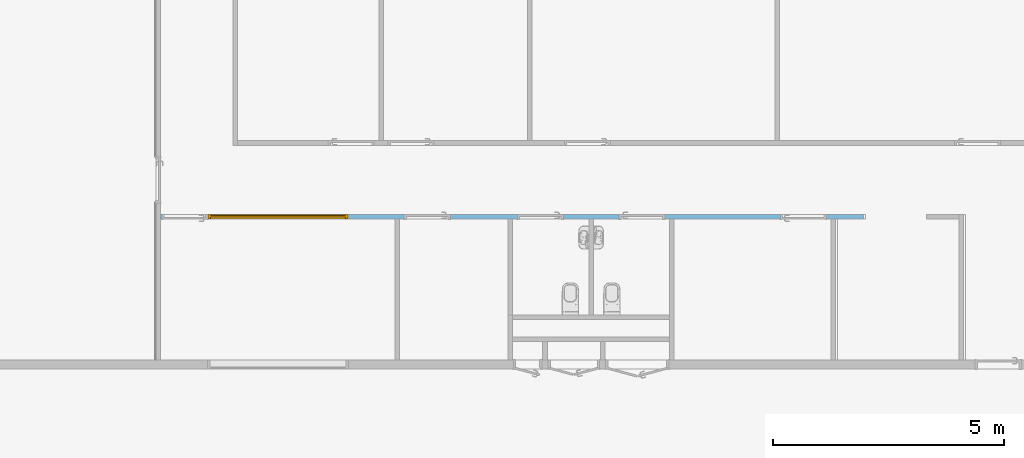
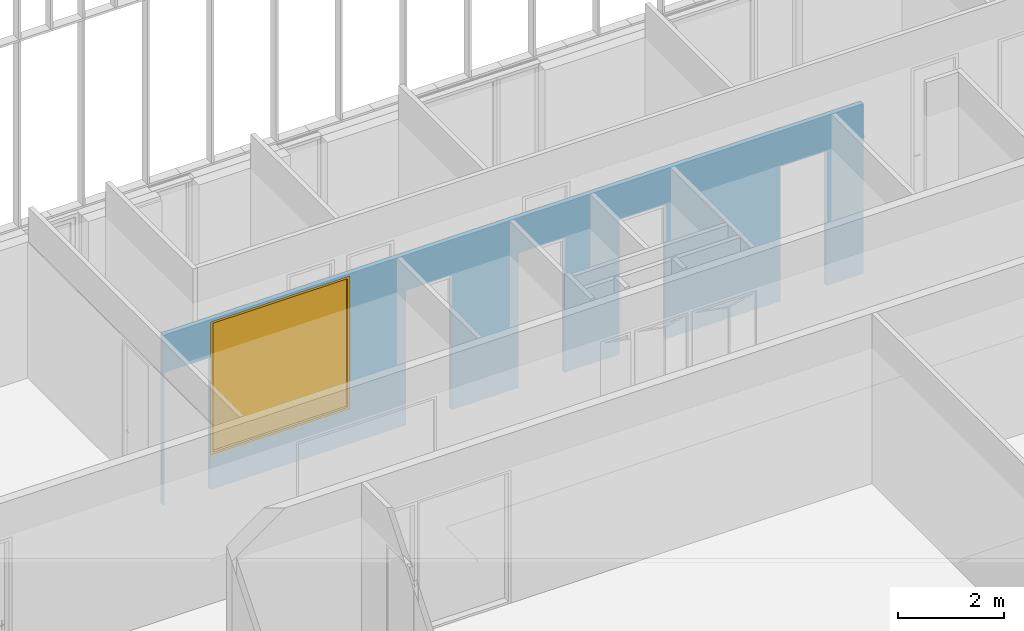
# One storey, part 215 of 240: 1 window, 6 openings, plus 1 element that does not belong to this part.
"""IFC2X3 building model written with IfcOpenShell, lengths in centimetres."""

from ifc_helpers import new_model, entity, si_unit, converted_unit, derived_unit, direction, frame, frame_2d, origin, place, context, subcontext, project, spatial, polyline, rectangle, extrude, clip, bounded_halfspace, faceted_brep, source, transform, mapped, material, material_list, layer, layer_set, layer_usage, type_object, type_shapes, element, fill, save


model = new_model("IFC2X3")

# Units and contexts
model_context = context("Model", 3, precision=0.001, world=origin(), true_north=direction((6.12303176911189e-17, 1.0)))
body_context = subcontext(model_context, "Body", "Model", "MODEL_VIEW")
ifc_project = project(units=[si_unit("LENGTHUNIT", "METRE", prefix="CENTI"), si_unit("AREAUNIT", "SQUARE_METRE"), si_unit("VOLUMEUNIT", "CUBIC_METRE"), converted_unit("PLANEANGLEUNIT", "DEGREE", entity("IfcRatioMeasure", 0.0174532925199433), si_unit("PLANEANGLEUNIT", "RADIAN"), dimensions=[0, 0, 0, 0, 0, 0, 0]), si_unit("MASSUNIT", "GRAM", prefix="KILO"), derived_unit("MASSDENSITYUNIT", [(si_unit("MASSUNIT", "GRAM", prefix="KILO"), 1), (si_unit("LENGTHUNIT", "METRE"), -3)]), si_unit("TIMEUNIT", "SECOND"), si_unit("FREQUENCYUNIT", "HERTZ"), si_unit("THERMODYNAMICTEMPERATUREUNIT", "DEGREE_CELSIUS"), derived_unit("THERMALTRANSMITTANCEUNIT", [(si_unit("MASSUNIT", "GRAM", prefix="KILO"), 1), (si_unit("THERMODYNAMICTEMPERATUREUNIT", "KELVIN"), -1), (si_unit("TIMEUNIT", "SECOND"), -3)]), derived_unit("VOLUMETRICFLOWRATEUNIT", [(si_unit("LENGTHUNIT", "METRE"), 3), (si_unit("TIMEUNIT", "SECOND"), -1)]), si_unit("ELECTRICCURRENTUNIT", "AMPERE"), si_unit("ELECTRICVOLTAGEUNIT", "VOLT"), si_unit("POWERUNIT", "WATT"), si_unit("FORCEUNIT", "NEWTON", prefix="KILO"), si_unit("ILLUMINANCEUNIT", "LUX"), si_unit("LUMINOUSFLUXUNIT", "LUMEN"), si_unit("LUMINOUSINTENSITYUNIT", "CANDELA"), derived_unit("USERDEFINED", [(si_unit("MASSUNIT", "GRAM", prefix="KILO"), -1), (si_unit("LENGTHUNIT", "METRE"), -2), (si_unit("TIMEUNIT", "SECOND"), 3), (si_unit("LUMINOUSFLUXUNIT", "LUMEN"), 1)]), derived_unit("LINEARVELOCITYUNIT", [(si_unit("LENGTHUNIT", "METRE"), 1), (si_unit("TIMEUNIT", "SECOND"), -1)]), si_unit("PRESSUREUNIT", "PASCAL"), derived_unit("USERDEFINED", [(si_unit("LENGTHUNIT", "METRE"), -2), (si_unit("MASSUNIT", "GRAM", prefix="KILO"), 1), (si_unit("TIMEUNIT", "SECOND"), -2)])], contexts=[model_context])

# Site, building, storey
site_placement = place(None, frame((-2781.94577612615, 7442.24238424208, 0.0)))
site = spatial("IfcSite", under=ifc_project, at=site_placement, Name="Default", CompositionType="ELEMENT")
building_placement = place(site_placement, origin())
building = spatial("IfcBuilding", under=site, at=building_placement, CompositionType="ELEMENT")
storey_placement = place(building_placement, origin())
storey = spatial("IfcBuildingStorey", under=building, at=storey_placement, Name="N00 - COO", CompositionType="ELEMENT", Elevation=0.0)

# Wall, openings, window
ifc_material_1 = material(Name="01 - Enduit/Plâtre")
ifc_layer_1 = layer(ifc_material_1, 1.3)
ifc_material_2 = material(Name="00 - Isolant")
ifc_layer_2 = layer(ifc_material_2, 7.4)
ifc_layer_3 = layer(ifc_material_1, 1.3)
ifc_layer_set = layer_set([ifc_layer_1, ifc_layer_2, ifc_layer_3], Name="Mur de base:06 - cloisons - Ba13 10cm")
ifc_layer_usage = layer_usage(ifc_layer_set, "AXIS2", "NEGATIVE", 5.0)
wall_type = type_object("IfcWallType", Name="Mur de base:06 - cloisons - Ba13 10cm", PredefinedType="STANDARD", material=ifc_layer_set)
wall_placement = place(building_placement, frame((-6043.49987760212, -500.0, 0.0), z_axis=(0.0, 0.0, 1.0), x_axis=(-1.0, 0.0, 0.0)))
wall = element("IfcWallStandardCase", 1, at=wall_placement, inside=storey, type_object=wall_type, material=ifc_layer_usage, Name="Mur de base:06 - cloisons - Ba13 10cm", ObjectType="Mur de base:06 - cloisons - Ba13 10cm", context=body_context, shape_type="Clipping", body=[
    clip(extrude(rectangle(XDim=1522.75, YDim=10.0000000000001, at=frame_2d((761.375000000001, 2.04281036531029e-14), x_axis=(-1.0, 0.0))), origin(), (0.0, 0.0, 1.0), 391.0), bounded_halfspace(frame((0.0, -5.0, 391.0), z_axis=(0.0, 0.0, -1.0), x_axis=(0.0, -1.0, 0.0)), True, frame((0.0, -5.0, 391.0)), polyline([(0.0, 0.0), (1522.75, 0.0), (1522.75, 10.0), (1015.0, 10.0), (1005.0, 10.0), (770.0, 10.0), (760.0, 10.0), (595.0, 10.0), (585.0, 10.0), (420.0, 10.0), (410.0, 10.0), (70.0, 10.0), (60.0, 10.0), (0.0, 10.0), (0.0, 0.0)]))),
])
opening_1_placement = place(wall_placement, frame((80.0, -5.0, 0.0)))
element("IfcOpeningElement", 2, at=opening_1_placement, cuts=wall, Name="Int. Simple:PP (0.93m x 3.06m):1", ObjectType="Opening", context=body_context, shape_type="SweptSolid", body=[
    extrude(rectangle(XDim=309.500000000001, YDim=99.9999999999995, at=frame_2d((154.750000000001, 50.0), x_axis=(1.0, 0.0))), frame((0.0, 0.0, 0.0), z_axis=(0.0, 1.0, 0.0), x_axis=(0.0, 0.0, 1.0)), (0.0, 0.0, 1.0), 10.0),
])
opening_2_placement = place(wall_placement, frame((530.0, 5.0, 0.0)))
element("IfcOpeningElement", 3, at=opening_2_placement, cuts=wall, Name="Int. Simple:PP (0.93m x 3.06m):1", ObjectType="Opening", context=body_context, shape_type="SweptSolid", body=[
    extrude(rectangle(XDim=309.500000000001, YDim=99.9999999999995, at=frame_2d((154.750000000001, 49.9999999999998), x_axis=(1.0, 0.0))), frame((0.0, 0.0, 0.0), z_axis=(0.0, -1.0, 0.0), x_axis=(0.0, 0.0, 1.0)), (0.0, 0.0, 1.0), 10.0),
])
opening_3_placement = place(wall_placement, frame((750.0, 5.0, 0.0)))
element("IfcOpeningElement", 4, at=opening_3_placement, cuts=wall, Name="Int. Simple:PP (0.93m x 3.06m):1", ObjectType="Opening", context=body_context, shape_type="SweptSolid", body=[
    extrude(rectangle(XDim=309.500000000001, YDim=99.9999999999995, at=frame_2d((154.750000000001, 50.0), x_axis=(1.0, 0.0))), frame((0.0, 0.0, 0.0), z_axis=(0.0, -1.0, 0.0), x_axis=(0.0, 0.0, 1.0)), (0.0, 0.0, 1.0), 10.0),
])
opening_4_placement = place(wall_placement, frame((995.0, 5.0, 0.0)))
element("IfcOpeningElement", 5, at=opening_4_placement, cuts=wall, Name="Int. Simple:PP (0.93m x 3.06m):1", ObjectType="Opening", context=body_context, shape_type="SweptSolid", body=[
    extrude(rectangle(XDim=309.500000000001, YDim=99.9999999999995, at=frame_2d((154.750000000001, 50.0), x_axis=(1.0, 0.0))), frame((0.0, 0.0, 0.0), z_axis=(0.0, -1.0, 0.0), x_axis=(0.0, 0.0, 1.0)), (0.0, 0.0, 1.0), 10.0),
])
opening_5_placement = place(wall_placement, frame((1420.0, -5.0, 0.0)))
element("IfcOpeningElement", 6, at=opening_5_placement, cuts=wall, Name="Int. Simple:PV (0.93m x 3.00m):1", ObjectType="Opening", context=body_context, shape_type="SweptSolid", body=[
    extrude(rectangle(XDim=304.500000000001, YDim=99.9999999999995, at=frame_2d((152.250000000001, 49.9999999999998), x_axis=(1.0, 0.0))), frame((0.0, 0.0, 0.0), z_axis=(0.0, 1.0, 0.0), x_axis=(0.0, 0.0, 1.0)), (0.0, 0.0, 1.0), 10.0),
])
opening_6_placement = place(wall_placement, frame((1116.72491693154, -5.0, 80.0)))
opening_6 = element("IfcOpeningElement", 7, at=opening_6_placement, cuts=wall, Name="châssis intérieur vitré:châssis intérieur vitré (h=306):1", ObjectType="Opening", context=body_context, shape_type="SweptSolid", body=[
    extrude(rectangle(XDim=306.0, YDim=302.862969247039, at=frame_2d((153.0, 151.43148462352), x_axis=(1.0, 0.0))), frame((0.0, 0.0, 0.0), z_axis=(0.0, 1.0, 0.0), x_axis=(0.0, 0.0, 1.0)), (0.0, 0.0, 1.0), 10.0),
])
ifc_material_3 = material(Name="Verre")
ifc_material_4 = material(Name="huisserie bois")
ifc_material_list_1 = material_list([ifc_material_3, ifc_material_4])
ifc_material_list_2 = material_list([ifc_material_3, ifc_material_4])
window_style = type_object("IfcWindowStyle", Name="châssis intérieur vitré (h=306)", ConstructionType="NOTDEFINED", OperationType="NOTDEFINED", ParameterTakesPrecedence=False, Sizeable=False, material=ifc_material_list_2)
shared_shape = source(origin(), body_context, "Body", "Brep", [
    faceted_brep([(299.862969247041, 5.0, 303.0), (299.862969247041, 5.0, 3.0), (3.0, 5.0, 3.0), (3.0, 5.0, 303.0), (299.862969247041, 2.0, 303.0), (299.862969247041, 2.0, 3.0), (3.0, 2.0, 3.0), (3.0, 2.0, 303.0)], [[[0, 1, 2, 3]], [[1, 0, 4, 5]], [[2, 1, 5, 6]], [[3, 2, 6, 7]], [[4, 7, 6, 5]], [[0, 3, 7, 4]]]),
    faceted_brep([(299.862969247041, 2.0, 303.0), (299.862969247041, 0.0, 303.0), (299.862969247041, 0.0, 3.0), (299.862969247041, 2.0, 3.0), (297.86296924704, 0.0, 5.0), (5.0, 0.0, 5.0), (5.0, 0.0, 301.0), (297.86296924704, 0.0, 301.0), (3.0, 0.0, 303.0), (3.0, 0.0, 3.0), (3.0, 2.0, 3.0), (3.0, 2.0, 303.0), (297.86296924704, 2.0, 301.0), (5.0, 2.0, 301.0), (5.0, 2.0, 5.0), (297.86296924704, 2.0, 5.0)], [[[0, 1, 2, 3]], [[4, 5, 6, 7], [1, 8, 9, 2]], [[3, 2, 9, 10]], [[3, 10, 11, 0], [12, 13, 14, 15]], [[7, 12, 15, 4]], [[4, 15, 14, 5]], [[10, 9, 8, 11]], [[5, 14, 13, 6]], [[11, 8, 1, 0]], [[6, 13, 12, 7]]], outer=[[True], [False, True], [True], [True, False], [True], [True], [True], [True], [True], [True]]),
    faceted_brep([(297.862969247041, 5.0, 301.0), (297.862969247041, 10.0, 301.0), (297.862969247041, 10.0, 5.0), (297.862969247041, 5.0, 5.0), (302.862969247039, 10.0, 0.0), (0.0, 10.0, 0.0), (0.0, 10.0, 306.0), (302.862969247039, 10.0, 306.0), (5.0, 10.0, 301.0), (5.0, 10.0, 5.0), (5.0, 5.0, 5.0), (5.0, 5.0, 301.0), (299.862969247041, 5.0, 303.0), (3.0, 5.0, 303.0), (3.0, 5.0, 3.0), (299.862969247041, 5.0, 3.0), (299.862969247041, 0.0, 303.0), (299.862969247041, 0.0, 3.0), (3.0, 0.0, 3.0), (3.0, 0.0, 303.0), (302.862969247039, 0.0, 306.0), (0.0, 0.0, 306.0), (0.0, 0.0, 0.0), (302.862969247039, 0.0, 0.0)], [[[0, 1, 2, 3]], [[4, 5, 6, 7], [1, 8, 9, 2]], [[3, 2, 9, 10]], [[3, 10, 11, 0], [12, 13, 14, 15]], [[16, 12, 15, 17]], [[17, 15, 14, 18]], [[17, 18, 19, 16], [20, 21, 22, 23]], [[7, 20, 23, 4]], [[4, 23, 22, 5]], [[10, 9, 8, 11]], [[18, 14, 13, 19]], [[5, 22, 21, 6]], [[11, 8, 1, 0]], [[19, 13, 12, 16]], [[6, 21, 20, 7]]], outer=[[True], [True, False], [True], [False, True], [True], [True], [False, True], [True], [True], [True], [True], [True], [True], [True], [True]]),
])
type_shapes(window_style, [shared_shape])
window_placement = place(opening_6_placement, origin())
window = element("IfcWindow", 8, at=window_placement, inside=storey, type_object=window_style, material=ifc_material_list_1, Name="châssis intérieur vitré:châssis intérieur vitré (h=306)", ObjectType="châssis intérieur vitré:châssis intérieur vitré (h=306)", OverallHeight=306.0, OverallWidth=302.862969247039, context=body_context, shape_type="MappedRepresentation", body=[
    mapped(shared_shape, transform((0.0, 0.0, 0.0), scale=1.0)),
])
fill(opening_6, window)

save(model, "model.ifc")
